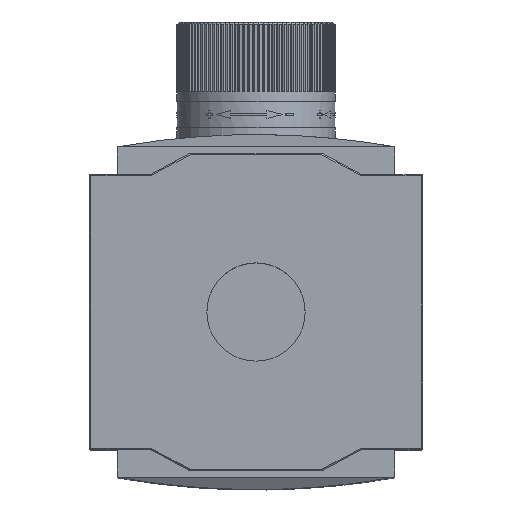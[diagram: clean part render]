
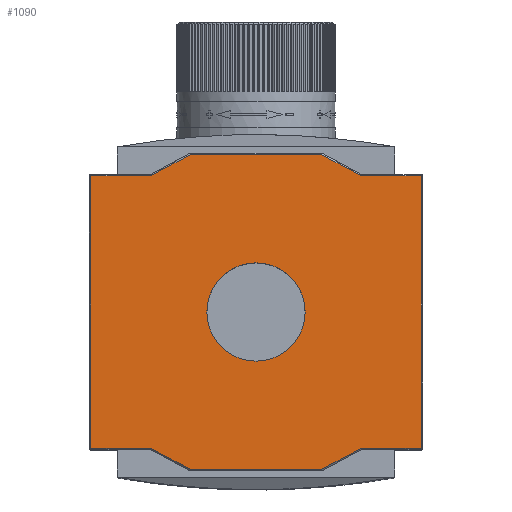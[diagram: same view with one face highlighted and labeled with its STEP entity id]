
A CAD part, top view. The second image highlights one B-rep face of the part: STEP entity #1090.
In plain terms, the highlighted planar face has unit normal (0, 0, 1).
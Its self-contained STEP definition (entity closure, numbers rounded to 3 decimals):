
#976=CARTESIAN_POINT('',(0.,0.,37.5));
#977=DIRECTION('',(0.0,0.0,1.0));
#978=DIRECTION('',(1.0,0.0,0.0));
#979=AXIS2_PLACEMENT_3D('',#976,#977,#978);
#980=PLANE('',#979);
#981=CARTESIAN_POINT('',(19.937,25.75,37.5));
#982=VERTEX_POINT('',#981);
#983=CARTESIAN_POINT('',(31.25,25.75,37.5));
#984=VERTEX_POINT('',#983);
#985=CARTESIAN_POINT('',(19.937,25.75,37.5));
#986=DIRECTION('',(1.0,0.0,0.0));
#987=VECTOR('',#986,11.313);
#988=LINE('',#985,#987);
#989=EDGE_CURVE('',#982,#984,#988,.T.);
#990=ORIENTED_EDGE('',*,*,#989,.F.);
#991=CARTESIAN_POINT('',(12.438,29.75,37.5));
#992=VERTEX_POINT('',#991);
#993=CARTESIAN_POINT('',(12.438,29.75,37.5));
#994=DIRECTION('',(0.882,-0.471,0.0));
#995=VECTOR('',#994,8.5);
#996=LINE('',#993,#995);
#997=EDGE_CURVE('',#992,#982,#996,.T.);
#998=ORIENTED_EDGE('',*,*,#997,.F.);
#999=CARTESIAN_POINT('',(-12.438,29.75,37.5));
#1000=VERTEX_POINT('',#999);
#1001=CARTESIAN_POINT('',(-12.438,29.75,37.5));
#1002=DIRECTION('',(1.0,0.0,0.0));
#1003=VECTOR('',#1002,24.875);
#1004=LINE('',#1001,#1003);
#1005=EDGE_CURVE('',#1000,#992,#1004,.T.);
#1006=ORIENTED_EDGE('',*,*,#1005,.F.);
#1007=CARTESIAN_POINT('',(-19.938,25.75,37.5));
#1008=VERTEX_POINT('',#1007);
#1009=CARTESIAN_POINT('',(-19.938,25.75,37.5));
#1010=DIRECTION('',(0.882,0.471,0.0));
#1011=VECTOR('',#1010,8.5);
#1012=LINE('',#1009,#1011);
#1013=EDGE_CURVE('',#1008,#1000,#1012,.T.);
#1014=ORIENTED_EDGE('',*,*,#1013,.F.);
#1015=CARTESIAN_POINT('',(-31.25,25.75,37.5));
#1016=VERTEX_POINT('',#1015);
#1017=CARTESIAN_POINT('',(-31.25,25.75,37.5));
#1018=DIRECTION('',(1.0,0.0,0.0));
#1019=VECTOR('',#1018,11.312);
#1020=LINE('',#1017,#1019);
#1021=EDGE_CURVE('',#1016,#1008,#1020,.T.);
#1022=ORIENTED_EDGE('',*,*,#1021,.F.);
#1023=CARTESIAN_POINT('',(-31.25,-25.75,37.5));
#1024=VERTEX_POINT('',#1023);
#1025=CARTESIAN_POINT('',(-31.25,-25.75,37.5));
#1026=DIRECTION('',(0.0,1.0,0.0));
#1027=VECTOR('',#1026,51.5);
#1028=LINE('',#1025,#1027);
#1029=EDGE_CURVE('',#1024,#1016,#1028,.T.);
#1030=ORIENTED_EDGE('',*,*,#1029,.F.);
#1031=CARTESIAN_POINT('',(-19.937,-25.75,37.5));
#1032=VERTEX_POINT('',#1031);
#1033=CARTESIAN_POINT('',(-19.937,-25.75,37.5));
#1034=DIRECTION('',(-1.0,0.0,0.0));
#1035=VECTOR('',#1034,11.313);
#1036=LINE('',#1033,#1035);
#1037=EDGE_CURVE('',#1032,#1024,#1036,.T.);
#1038=ORIENTED_EDGE('',*,*,#1037,.F.);
#1039=CARTESIAN_POINT('',(-12.437,-29.75,37.5));
#1040=VERTEX_POINT('',#1039);
#1041=CARTESIAN_POINT('',(-12.437,-29.75,37.5));
#1042=DIRECTION('',(-0.882,0.471,0.0));
#1043=VECTOR('',#1042,8.5);
#1044=LINE('',#1041,#1043);
#1045=EDGE_CURVE('',#1040,#1032,#1044,.T.);
#1046=ORIENTED_EDGE('',*,*,#1045,.F.);
#1047=CARTESIAN_POINT('',(12.437,-29.75,37.5));
#1048=VERTEX_POINT('',#1047);
#1049=CARTESIAN_POINT('',(12.437,-29.75,37.5));
#1050=DIRECTION('',(-1.0,0.0,0.0));
#1051=VECTOR('',#1050,24.875);
#1052=LINE('',#1049,#1051);
#1053=EDGE_CURVE('',#1048,#1040,#1052,.T.);
#1054=ORIENTED_EDGE('',*,*,#1053,.F.);
#1055=CARTESIAN_POINT('',(19.937,-25.75,37.5));
#1056=VERTEX_POINT('',#1055);
#1057=CARTESIAN_POINT('',(19.937,-25.75,37.5));
#1058=DIRECTION('',(-0.882,-0.471,0.0));
#1059=VECTOR('',#1058,8.5);
#1060=LINE('',#1057,#1059);
#1061=EDGE_CURVE('',#1056,#1048,#1060,.T.);
#1062=ORIENTED_EDGE('',*,*,#1061,.F.);
#1063=CARTESIAN_POINT('',(31.25,-25.75,37.5));
#1064=VERTEX_POINT('',#1063);
#1065=CARTESIAN_POINT('',(31.25,-25.75,37.5));
#1066=DIRECTION('',(-1.0,0.0,0.0));
#1067=VECTOR('',#1066,11.313);
#1068=LINE('',#1065,#1067);
#1069=EDGE_CURVE('',#1064,#1056,#1068,.T.);
#1070=ORIENTED_EDGE('',*,*,#1069,.F.);
#1071=CARTESIAN_POINT('',(31.25,25.75,37.5));
#1072=DIRECTION('',(0.0,-1.0,0.0));
#1073=VECTOR('',#1072,51.5);
#1074=LINE('',#1071,#1073);
#1075=EDGE_CURVE('',#984,#1064,#1074,.T.);
#1076=ORIENTED_EDGE('',*,*,#1075,.F.);
#1077=EDGE_LOOP('',(#990,#998,#1006,#1014,#1022,#1030,#1038,#1046,#1054,#1062,#1070,#1076));
#1078=FACE_OUTER_BOUND('',#1077,.T.);
#1079=CARTESIAN_POINT('',(9.3,0.,37.5));
#1080=VERTEX_POINT('',#1079);
#1081=CARTESIAN_POINT('',(0.0,0.0,37.5));
#1082=DIRECTION('',(0.0,0.0,-1.0));
#1083=DIRECTION('',(-1.0,0.0,0.0));
#1084=AXIS2_PLACEMENT_3D('',#1081,#1082,#1083);
#1085=CIRCLE('',#1084,9.3);
#1086=EDGE_CURVE('',#1080,#1080,#1085,.T.);
#1087=ORIENTED_EDGE('',*,*,#1086,.T.);
#1088=EDGE_LOOP('',(#1087));
#1089=FACE_BOUND('',#1088,.T.);
#1090=ADVANCED_FACE('',(#1078,#1089),#980,.T.);
